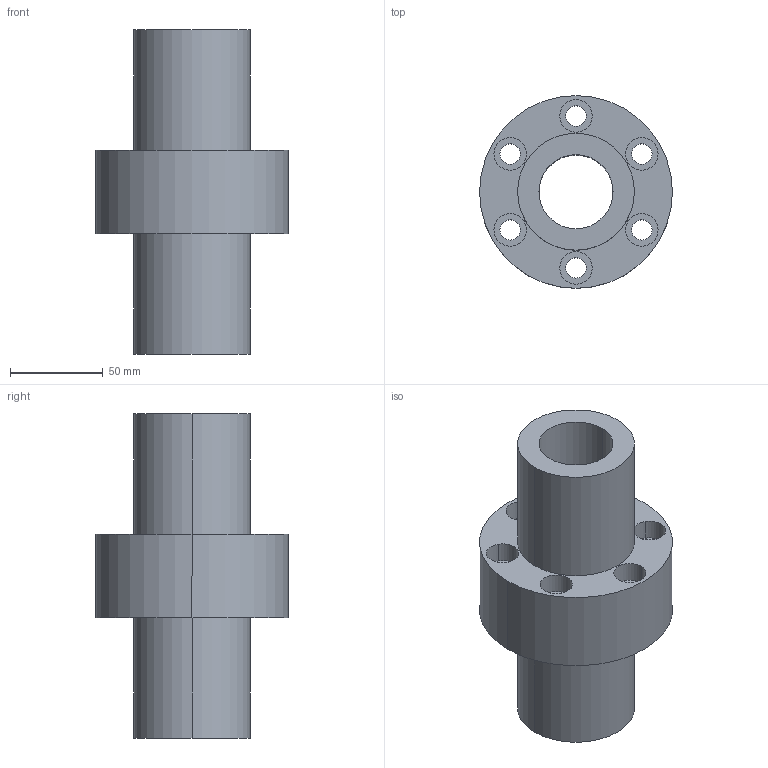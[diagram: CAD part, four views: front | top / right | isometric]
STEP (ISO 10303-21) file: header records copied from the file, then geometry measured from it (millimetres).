
FILE_DESCRIPTION((''),'2;1');
FILE_NAME('40-10T3','2008-04-07T',('yanyu'),(''),'PRO/ENGINEER BY PARAMETRIC TECHNOLOGY CORPORATION, 2005070','PRO/ENGINEER BY PARAMETRIC TECHNOLOGY CORPORATION, 2005070','');
FILE_SCHEMA(('CONFIG_CONTROL_DESIGN'));
Length unit declared in the file: millimetre
Products named in the file (1): 40-10T3
Bounding box: 104 x 104 x 175 mm (x, y, z)
Volume: 532337.8 mm3; surface area: 86437.8 mm2
Topology: 1 solids, 1 shells, 42 faces, 100 edges, 68 vertices
Faces by surface type: cylinder 32, plane 10
Entity records: 1330 total; most frequent: DIRECTION 252, CARTESIAN_POINT 210, ORIENTED_EDGE 200, AXIS2_PLACEMENT_3D 110, EDGE_CURVE 100, VERTEX_POINT 68, CIRCLE 68, EDGE_LOOP 64
